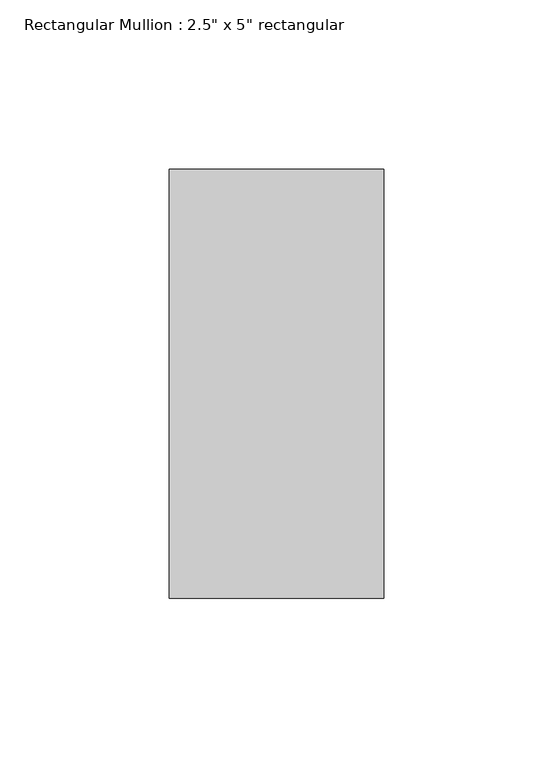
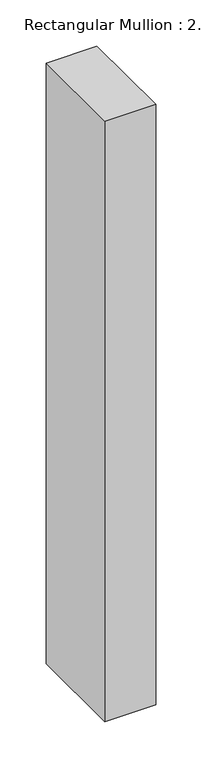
"""IFC4 building model written with IfcOpenShell, lengths in millimetres: member geometry."""

from ifc_helpers import new_model, si_unit, frame, origin, place, context, project, spatial, polyline, outline, extrude, source, transform, mapped, element, save


def member_6f717f5b(model_context):
    return source(origin(), model_context, "Body", "SweptSolid", [
        extrude(outline(polyline([(31.75, 63.5), (31.75, -63.5), (-31.75, -63.5), (-31.75, 63.5), (31.75, 63.5)])), frame((0.0, 0.0, -793.75), z_axis=(0.0, 0.0, 1.0), x_axis=(1.0, 0.0, 0.0)), (0.0, 0.0, 1.0), 793.75),
    ])


if __name__ == "__main__":
    model = new_model("IFC4")
    model_context = context("Model", 3, world=origin())
    ifc_project = project(units=[si_unit("LENGTHUNIT", "METRE", prefix="MILLI")], contexts=[model_context])
    site = spatial("IfcSite", under=ifc_project)
    building = spatial("IfcBuilding", under=site)
    placement = place(None, origin())
    member_shape = member_6f717f5b(model_context)
    element("IfcMember", 1, ObjectType="Rectangular Mullion : 2.5\" x 5\" rectangular", at=placement, inside=building, context=model_context, shape_type="MappedRepresentation", body=[
        mapped(member_shape, transform((0.0, 0.0, 0.0), x_axis=(1.0, 0.0, 0.0), y_axis=(0.0, 1.0, 0.0), z_axis=(0.0, 0.0, 1.0))),
    ])
    save(model, "model.ifc")
